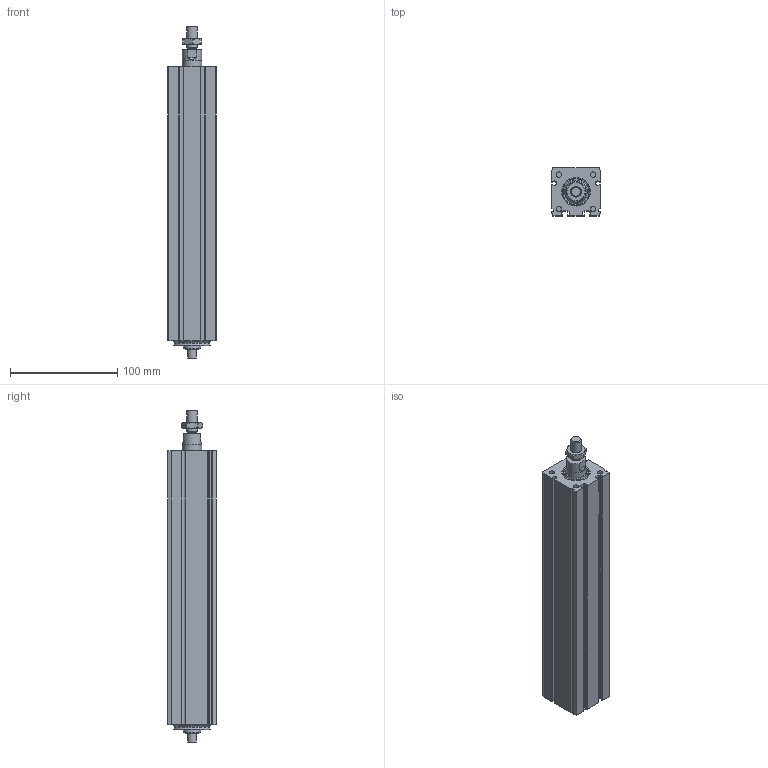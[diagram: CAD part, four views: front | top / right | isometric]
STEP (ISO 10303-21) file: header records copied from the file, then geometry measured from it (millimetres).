
FILE_DESCRIPTION(/* description */ ('STEP AP214'),/* implementation_level */ '2;1');
FILE_NAME(/* name */ 'MCE 45 1003 175 0(0)',/* time_stamp */ '2023-10-05T14:25:47+02:00',/* author */ ('License CC BY-ND 4.0'),/* organization */ ('CADENAS'),/* preprocessor_version */ 'ST-DEVELOPER v19.3',/* originating_system */ 'PARTsolutions',/* authorisation */ ' ');
FILE_SCHEMA (('AUTOMOTIVE_DESIGN {1 0 10303 214 3 1 1}'));
Length unit declared in the file: millimetre
Products named in the file (4): MCE 45 1003 175  0(0); 45_nut; 45(1750)_rod; 45(175)_msc
Assembly tree (3 placements, depth 2):
  MCE 45 1003 175  0(0)
    45_nut
    45(1750)_rod
    45(175)_msc
Bounding box: 45 x 45 x 309 mm (x, y, z)
Volume: 399851.7 mm3; surface area: 109699.2 mm2
Topology: 3 solids, 3 shells, 212 faces, 525 edges, 341 vertices
Faces by surface type: plane 92, cylinder 92, cone 23, torus 5
Full cylindrical faces by diameter (mm): 3.242 x4, 4.917 x4, 8 x2, 8.376 x1, 10 x1, 16 x1, 17.8 x1, 18 x2, 24 x1, 24.5 x1, 32.5 x2, 34 x2
Entity records: 6269 total; most frequent: CARTESIAN_POINT 1132, DIRECTION 1108, ORIENTED_EDGE 970, EDGE_CURVE 485, AXIS2_PLACEMENT_3D 433, VERTEX_POINT 339, EDGE_LOOP 274, FACE_BOUND 274
